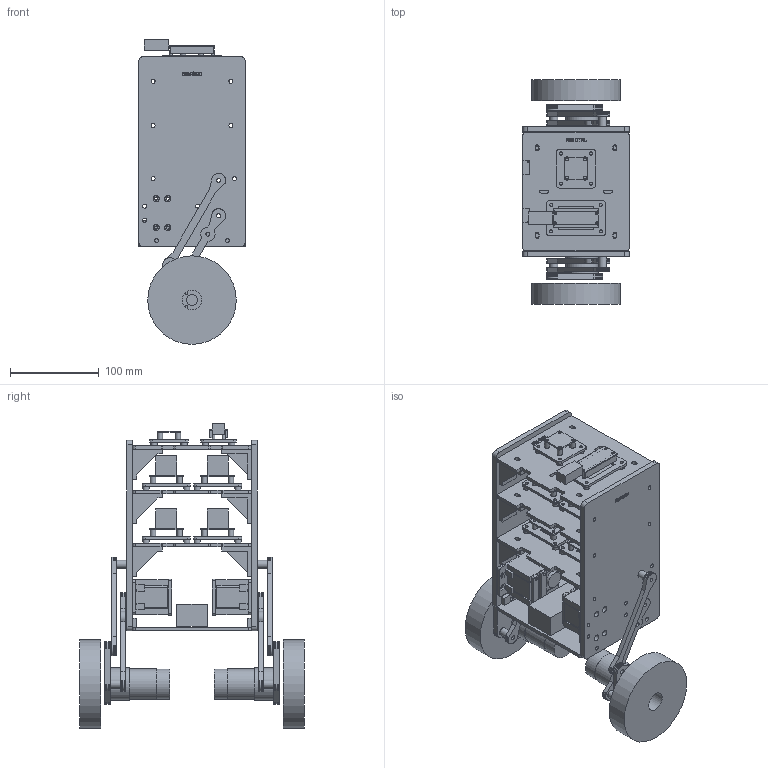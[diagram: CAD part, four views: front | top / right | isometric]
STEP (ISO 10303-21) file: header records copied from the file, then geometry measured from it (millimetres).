
FILE_DESCRIPTION(('Open CASCADE Model'),'2;1');
FILE_NAME('Open CASCADE Shape Model','2026-10-14T15:05:59',('Author'),( 'Open CASCADE'),'Open CASCADE STEP processor 7.8','Open CASCADE 7.8' ,'Unknown');
FILE_SCHEMA(('AUTOMOTIVE_DESIGN { 1 0 10303 214 1 1 1 1 }'));
Length unit declared in the file: millimetre
Products named in the file (119): HUX_R05_TWO_LEG_BODY; body_near; body_far; 03_power_deck; angle_60_-44_0; angle_60_-44_1; angle_60_48_0; angle_60_48_1; 04_interface_deck; angle_120_-44_0; angle_120_-44_1; angle_120_44_0; angle_120_44_1; 05_control_deck; angle_170_-44_0; angle_170_-44_1; angle_170_44_0; angle_170_44_1; battery_tray; battery_envelope; lower_link; lower_link_far; upper_link; upper_link_far; carrier; carrier_far; gearbox; gearbox_far; motor; motor_far; encoder; encoder_far; wheel; wheel_far; body_lower_spacer; body_lower_spacer_far; body_upper_spacer; body_upper_spacer_far; carrier_lower_spacer; carrier_lower_spacer_far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
Assembly tree (118 placements, depth 2):
  HUX_R05_TWO_LEG_BODY
    body_near
    body_far
    03_power_deck
    angle_60_-44_0
    angle_60_-44_1
    angle_60_48_0
    angle_60_48_1
    04_interface_deck
    angle_120_-44_0
    angle_120_-44_1
    angle_120_44_0
    angle_120_44_1
    05_control_deck
    angle_170_-44_0
    angle_170_-44_1
    angle_170_44_0
    angle_170_44_1
    battery_tray
    battery_envelope
    lower_link
    lower_link_far
    upper_link
    upper_link_far
    carrier
    carrier_far
    gearbox
    gearbox_far
    motor
    motor_far
    encoder
    encoder_far
    wheel
    wheel_far
    body_lower_spacer
    body_lower_spacer_far
    body_upper_spacer
    body_upper_spacer_far
    carrier_lower_spacer
    carrier_lower_spacer_far
    carrier_upper_spacer
    carrier_upper_spacer_far
    servo_cradle_near
    servo_cradle_far
    servo_bar_near_-17
    servo_bar_far_-17
    servo_bar_near_-4
    servo_bar_far_-4
    ST3215_case_near
    ST3215_case_far
    ST3215_output_near
    ST3215_output_far
    11_pico_plate
    11_pico_plate_foot_0
    11_pico_plate_foot_1
    11_pico_plate_foot_2
    11_pico_plate_foot_3
    11_pico_plate_spacer_0
    11_pico_plate_spacer_1
    11_pico_plate_spacer_2
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Bounding box: 120 x 254 x 344.26 mm (x, y, z)
Volume: 1589677.2 mm3; surface area: 569370 mm2
Topology: 118 solids, 118 shells, 2626 faces, 6955 edges, 4634 vertices
Faces by surface type: plane 1555, extrusion 539, cylinder 532
Full cylindrical faces by diameter (mm): 2.1 x4, 2.2 x4, 2.4 x4, 3.048 x4, 3.2 x20, 3.4 x12, 3.5 x128, 4.5 x28, 4.6 x60, 6 x20, 7 x32, 9 x8, 12.4 x2, 19.2 x2, 22 x4, 34 x2, 34.8 x2, 36.8 x2, 100 x2
Entity records: 190761 total; most frequent: CARTESIAN_POINT 50968, DIRECTION 23603, VECTOR 16573, LINE 16034, ORIENTED_EDGE 13910, PCURVE 13910, DEFINITIONAL_REPRESENTATION 13910, EDGE_CURVE 6955
